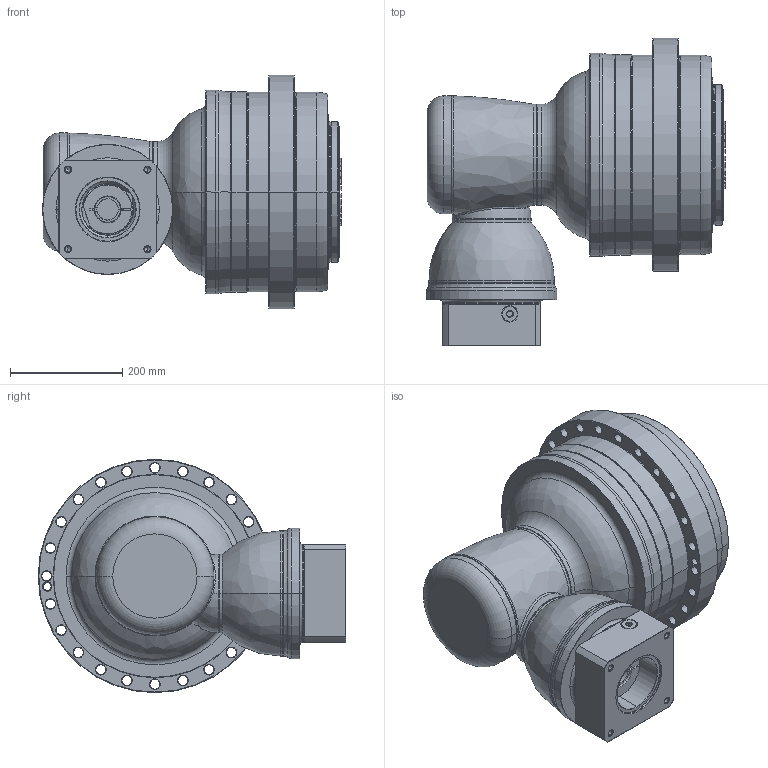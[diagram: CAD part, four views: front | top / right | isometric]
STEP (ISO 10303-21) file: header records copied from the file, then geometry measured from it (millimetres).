
FILE_DESCRIPTION((''),'2;1');
FILE_NAME('APCK355_3ST_38-P0409910201_ASM','2018-05-14T',('d01226'),(''),'PRO/ENGINEER BY PARAMETRIC TECHNOLOGY CORPORATION, 2008410','PRO/ENGINEER BY PARAMETRIC TECHNOLOGY CORPORATION, 2008410','');
FILE_SCHEMA(('CONFIG_CONTROL_DESIGN'));
Length unit declared in the file: millimetre
Products named in the file (13): P1008600002; P1315600001; P1007601001; P1318610201; P0409910201; P0503900012; P0912652001; 21711422019; P1821110001; P0276101003; P03571G0103; P1222100001; APCK355_3ST_38-P0409910201_ASM
Assembly tree (12 placements, depth 2):
  APCK355_3ST_38-P0409910201_ASM
    P1008600002
    P1315600001
    P1007601001
    P1318610201
    P0409910201
    P0503900012
    P0912652001
    21711422019
    P1821110001
    P0276101003
    P03571G0103
    P1222100001
Bounding box: 532.1 x 547 x 415 mm (x, y, z)
Volume: 44027428.6 mm3; surface area: 2053056.9 mm2
Topology: 13 solids, 25 shells, 822 faces, 1974 edges, 1210 vertices
Faces by surface type: cone 258, cylinder 229, plane 155, torus 147, bspline 31, sphere 2
Entity records: 31997 total; most frequent: CARTESIAN_POINT 12404, DIRECTION 4371, ORIENTED_EDGE 3870, EDGE_CURVE 1960, AXIS2_PLACEMENT_3D 1937, VERTEX_POINT 1210, CIRCLE 1109, EDGE_LOOP 936
